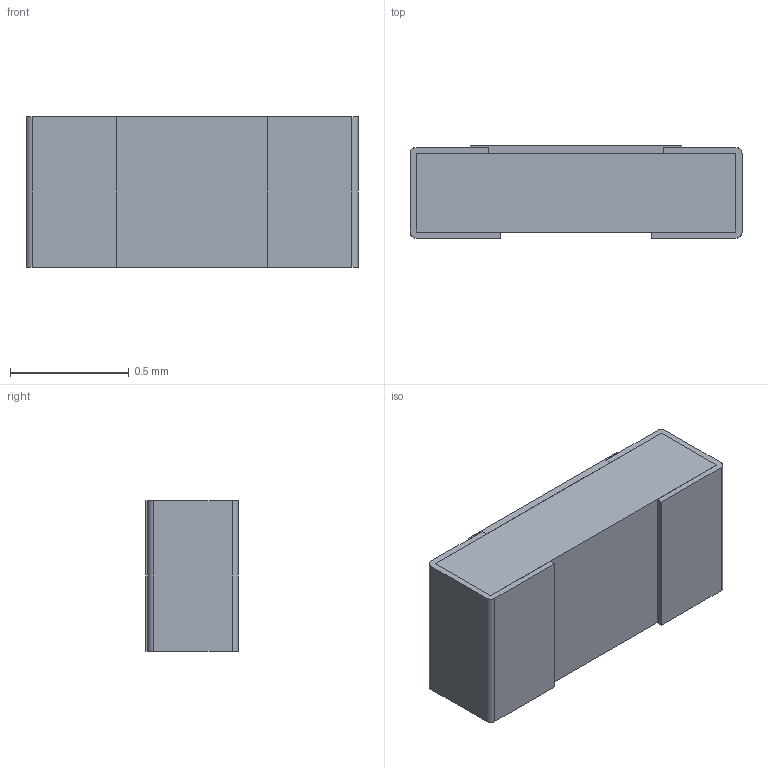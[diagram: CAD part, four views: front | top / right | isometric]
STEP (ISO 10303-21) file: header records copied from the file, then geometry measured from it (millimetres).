
FILE_DESCRIPTION(/* description */ (''),/* implementation_level */ '2;1');
FILE_NAME(/* name */ 'C:\Users\Public\Documents\Autodesk\Inventor LT 2014\Workspace\Vishay\STEP Files\PTN0502.stp',/* time_stamp */ '2020-01-08T14:53:12-06:00',/* author */ ('Neil'),/* organization */ (''),/* preprocessor_version */ 'ST-DEVELOPER v15.2',/* originating_system */ 'Autodesk Inventor LT ',/* authorisation */ '');
FILE_SCHEMA (('AUTOMOTIVE_DESIGN { 1 0 10303 214 3 1 1 }'));
Length unit declared in the file: inch
Products named in the file (1): PTN0502
Bounding box: 1.4 x 0.39 x 0.64 mm (x, y, z)
Volume: 0.3 mm3; surface area: 7.7 mm2
Topology: 5 solids, 5 shells, 82 faces, 216 edges, 144 vertices
Faces by surface type: plane 70, cylinder 12
Entity records: 2554 total; most frequent: CARTESIAN_POINT 443, ORIENTED_EDGE 432, DIRECTION 406, EDGE_CURVE 216, LINE 192, VECTOR 192, VERTEX_POINT 144, AXIS2_PLACEMENT_3D 107
